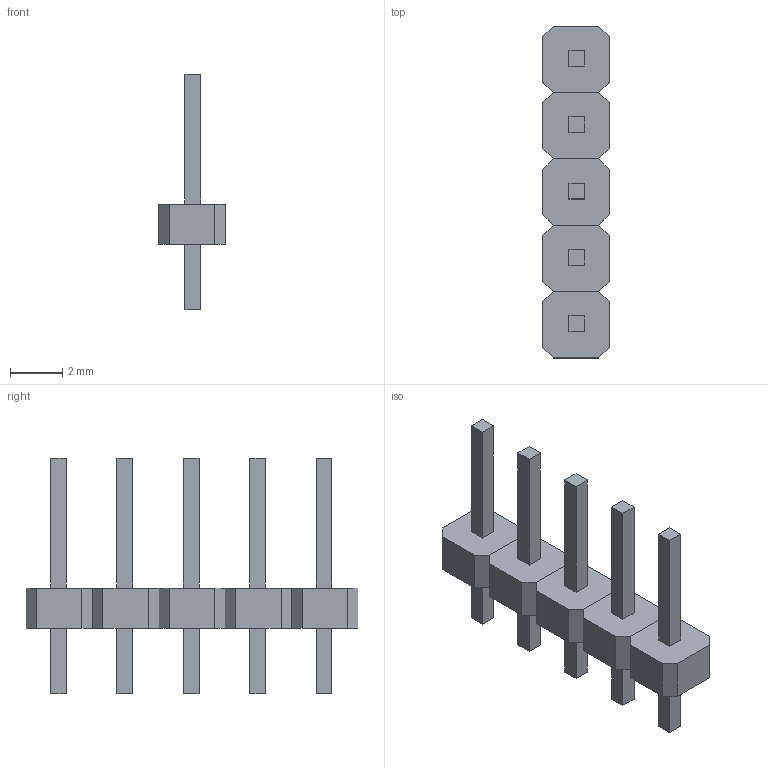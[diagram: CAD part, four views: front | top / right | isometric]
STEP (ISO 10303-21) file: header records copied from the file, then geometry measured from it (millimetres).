
FILE_DESCRIPTION(('FreeCAD Model'),'2;1');
FILE_NAME('Open CASCADE Shape Model','2025-02-25T20:21:30',( 'Krisjanis Rijnieks'),(''),'Open CASCADE STEP processor 7.7', 'FreeCAD','Unknown');
FILE_SCHEMA(('AUTOMOTIVE_DESIGN { 1 0 10303 214 1 1 1 1 }'));
Length unit declared in the file: millimetre
Products named in the file (13): 01x05_P2.54mm_Vertical_THT; 01x02_P2.54mm_Vertical_THT001; 01x01_P2.54mm_Vertical_THT010; PinHeader010; 01x01_P2.54mm_Vertical_THT011; PinHeader011; 01x03_P2.54mm_Vertical_THT001; 01x01_P2.54mm_Vertical_THT012; PinHeader012; 01x01_P2.54mm_Vertical_THT013; PinHeader013; 01x01_P2.54mm_Vertical_THT014; PinHeader014
Assembly tree (12 placements, depth 4):
  01x05_P2.54mm_Vertical_THT
    01x02_P2.54mm_Vertical_THT001
      01x01_P2.54mm_Vertical_THT010
        PinHeader010
      01x01_P2.54mm_Vertical_THT011
        PinHeader011
    01x03_P2.54mm_Vertical_THT001
      01x01_P2.54mm_Vertical_THT012
        PinHeader012
      01x01_P2.54mm_Vertical_THT013
        PinHeader013
      01x01_P2.54mm_Vertical_THT014
        PinHeader014
Bounding box: 2.54 x 12.7 x 9 mm (x, y, z)
Volume: 60.6 mm3; surface area: 221.9 mm2
Topology: 5 solids, 5 shells, 100 faces, 240 edges, 160 vertices
Faces by surface type: plane 100
Entity records: 3465 total; most frequent: CARTESIAN_POINT 513, ORIENTED_EDGE 480, DIRECTION 466, EDGE_CURVE 240, LINE 240, VECTOR 240, VERTEX_POINT 160, AXIS2_PLACEMENT_3D 113
